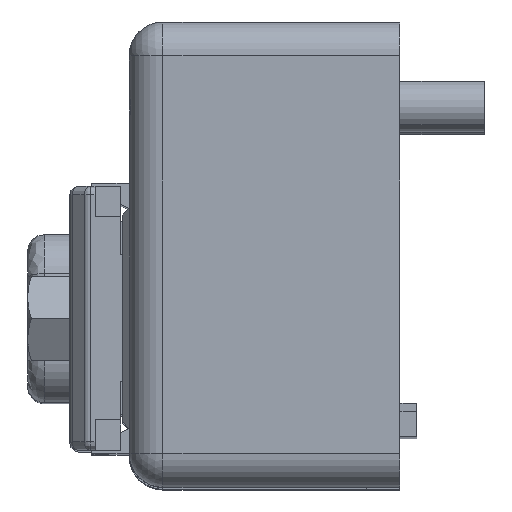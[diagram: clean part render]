
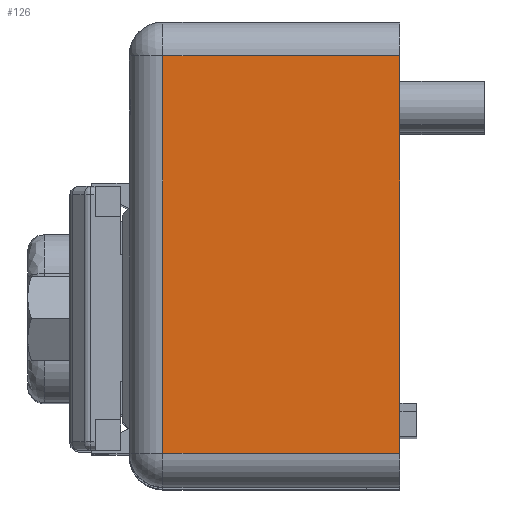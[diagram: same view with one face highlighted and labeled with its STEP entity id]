
A CAD part, top view. The second image highlights one B-rep face of the part: STEP entity #126.
In plain terms, the highlighted planar face has unit normal (0, 0, 1).
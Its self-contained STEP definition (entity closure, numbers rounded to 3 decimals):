
#126=ADVANCED_FACE('',(#653),#652,.T.);
#652=PLANE('',#4592);
#653=FACE_OUTER_BOUND('',#4593,.T.);
#4589=CARTESIAN_POINT('',(-15.4,-35.35,62.2));
#4590=DIRECTION('',(0.,0.,1.));
#4591=DIRECTION('',(1.,0.,0.));
#4592=AXIS2_PLACEMENT_3D('',#4589,#4590,#4591);
#4593=EDGE_LOOP('',(#6784,#6785,#6786,#6787));
#6784=ORIENTED_EDGE('',*,*,#8951,.F.);
#6785=ORIENTED_EDGE('',*,*,#9022,.T.);
#6786=ORIENTED_EDGE('',*,*,#9019,.T.);
#6787=ORIENTED_EDGE('',*,*,#9023,.F.);
#8951=EDGE_CURVE('',#10170,#10177,#10178,.T.);
#9019=EDGE_CURVE('',#10644,#10645,#10646,.T.);
#9022=EDGE_CURVE('',#10170,#10644,#10664,.T.);
#9023=EDGE_CURVE('',#10177,#10645,#10670,.T.);
#10170=VERTEX_POINT('',#17629);
#10177=VERTEX_POINT('',#17634);
#10178=LINE('',#17635,#17636);
#10644=VERTEX_POINT('',#17908);
#10645=VERTEX_POINT('',#17909);
#10646=LINE('',#17910,#17911);
#10664=LINE('',#17921,#17922);
#10670=LINE('',#17924,#17925);
#17629=CARTESIAN_POINT('',(-14.,-9.5,62.2));
#17634=CARTESIAN_POINT('',(0.,-9.5,62.2));
#17635=CARTESIAN_POINT('',(-14.,-9.5,62.2));
#17636=VECTOR('',#17637,14.);
#17637=DIRECTION('',(1.,0.,0.));
#17908=CARTESIAN_POINT('',(-14.,-33.,62.2));
#17909=CARTESIAN_POINT('',(0.,-33.,62.2));
#17910=CARTESIAN_POINT('',(-14.,-33.,62.2));
#17911=VECTOR('',#17912,14.);
#17912=DIRECTION('',(1.,0.,0.));
#17921=CARTESIAN_POINT('',(-14.,-9.5,62.2));
#17922=VECTOR('',#17923,23.5);
#17923=DIRECTION('',(0.,-1.,0.));
#17924=CARTESIAN_POINT('',(0.,-9.5,62.2));
#17925=VECTOR('',#17926,23.5);
#17926=DIRECTION('',(0.,-1.,0.));
